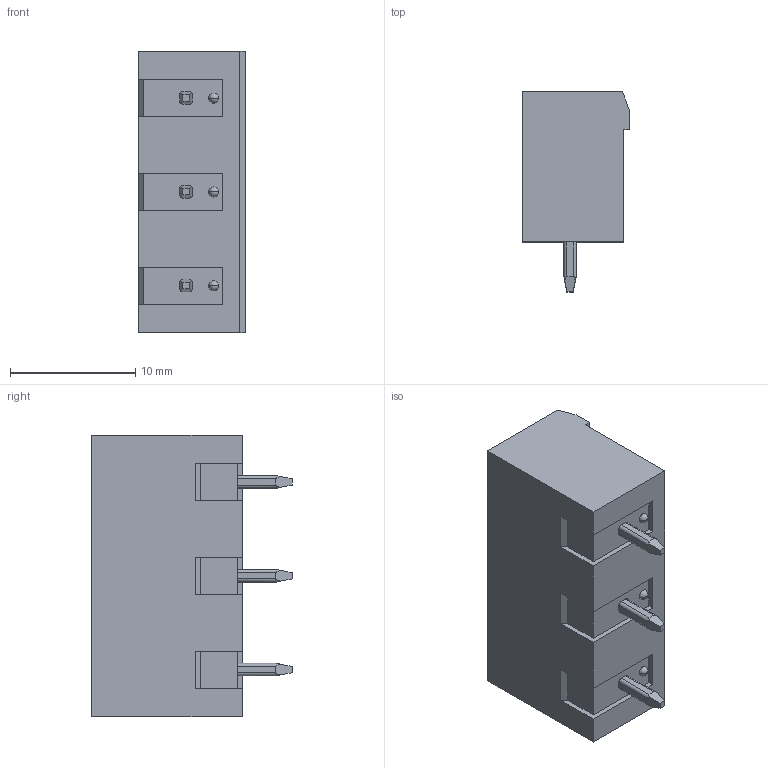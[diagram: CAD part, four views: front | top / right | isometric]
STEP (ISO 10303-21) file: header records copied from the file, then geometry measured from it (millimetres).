
FILE_DESCRIPTION((''),'2;1');
FILE_NAME('3PIN_SW0001','2019-04-09T',('zhenbing.lai'),(''),'CREO PARAMETRIC BY PTC INC, 2016260','CREO PARAMETRIC BY PTC INC, 2016260','');
FILE_SCHEMA(('CONFIG_CONTROL_DESIGN'));
Length unit declared in the file: millimetre
Products named in the file (1): 3PIN_SW0001
Bounding box: 8.55 x 16 x 22.5 mm (x, y, z)
Volume: 1354.2 mm3; surface area: 1591.2 mm2
Topology: 1 solids, 1 shells, 149 faces, 407 edges, 263 vertices
Faces by surface type: plane 113, cylinder 27, sphere 6, cone 3
Entity records: 4849 total; most frequent: CARTESIAN_POINT 1136, ORIENTED_EDGE 802, DIRECTION 690, EDGE_CURVE 401, VECTOR 302, LINE 302, VERTEX_POINT 263, AXIS2_PLACEMENT_3D 194
